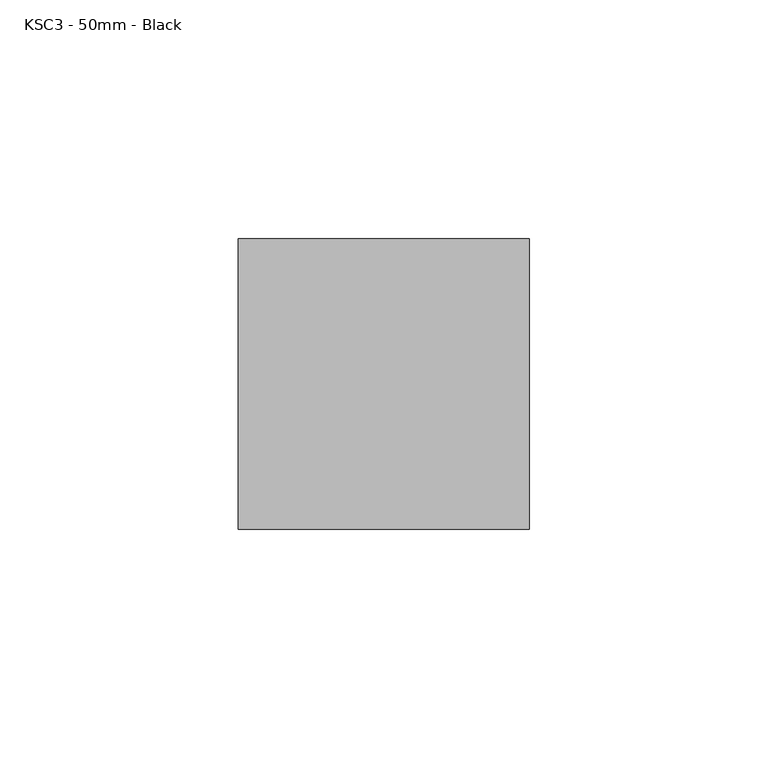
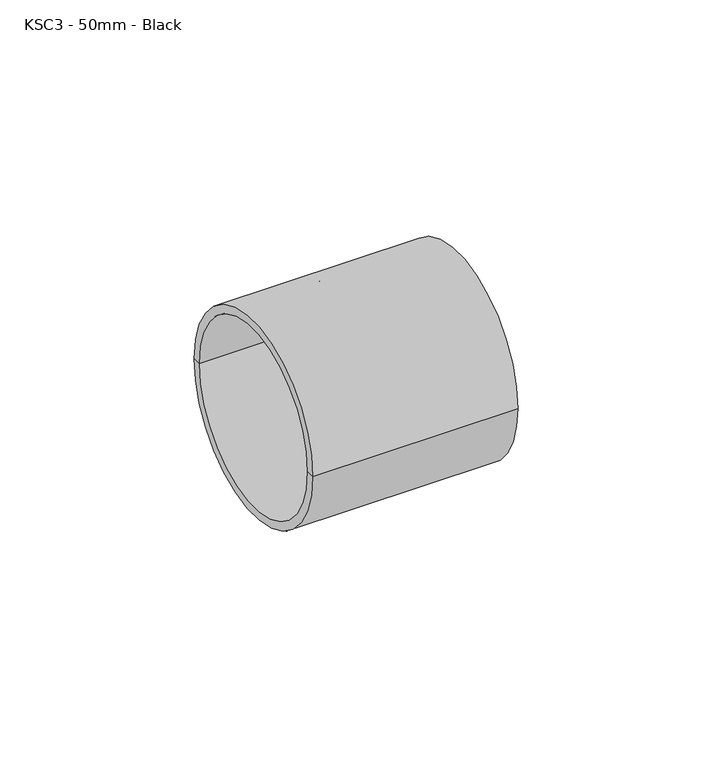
"""IFC4 building model written with IfcOpenShell, lengths in millimetres: pipe fitting geometry, MarleyPlumbingAndDrainage_PipeFitting_StraightCoupling : KSC3 - 50mm - Black."""

from ifc_helpers import new_model, si_unit, frame, origin, place, context, project, spatial, polyline, circle_curve, source, transform, mapped, element, save
from ifc_brep_helpers import plane_surface, cylinder_surface, revolved_surface, advanced_brep


def ksc3_50mm_black_f16c5d37(model_context):
    return source(origin(), model_context, "Body", "AdvancedBrep", [
        advanced_brep(
        [(-45.3253818, -28.0, 0.0), (-45.3253818, 28.0, 0.0), (-45.3253818, 30.5, 0.0), (-45.3253818, -30.5, 0.0), (-16.3253818, -28.0, 0.0), (-16.3253818, 28.0, 0.0), (-16.3253818, 0.0, 0.0), (-13.3253818, -28.0, 0.0), (-13.3253818, 28.0, 0.0), (-13.3253818, 0.0, 0.0), (15.6746182, -28.0, 0.0), (15.6746182, 28.0, 0.0), (15.6746182, -30.5, 0.0), (15.6746182, 30.5, 0.0)],
        [
            (0, 1, circle_curve(frame((-45.3253818, 0.0, 0.0), z_axis=(1.0, 0.0, 0.0), x_axis=(0.0, 1.0, 0.0)), 28.0)),
            (1, 2),
            (2, 3, circle_curve(frame((-45.3253818, 0.0, 0.0), z_axis=(-1.0, 0.0, 0.0), x_axis=(0.0, 1.0, 0.0)), 30.5)),
            (3, 0),
            (1, 0, circle_curve(frame((-45.3253818, 0.0, 0.0), z_axis=(1.0, 0.0, 0.0), x_axis=(0.0, 1.0, 0.0)), 28.0)),
            (3, 2, circle_curve(frame((-45.3253818, 0.0, 0.0), z_axis=(-1.0, 0.0, 0.0), x_axis=(0.0, 1.0, 0.0)), 30.5)),
            (4, 5, circle_curve(frame((-16.3253818, 0.0, 0.0), z_axis=(1.0, 0.0, 0.0), x_axis=(0.0, 1.0, 0.0)), 28.0)),
            (5, 1),
            (0, 4),
            (5, 4, circle_curve(frame((-16.3253818, 0.0, 0.0), z_axis=(1.0, 0.0, 0.0), x_axis=(0.0, 1.0, 0.0)), 28.0)),
            (6, 5),
            (4, 6),
            (7, 8, circle_curve(frame((-13.3253818, 0.0, 0.0), z_axis=(1.0, 0.0, 0.0), x_axis=(0.0, 1.0, 0.0)), 28.0)),
            (8, 9),
            (9, 7),
            (8, 7, circle_curve(frame((-13.3253818, 0.0, 0.0), z_axis=(1.0, 0.0, 0.0), x_axis=(0.0, 1.0, 0.0)), 28.0)),
            (10, 11, circle_curve(frame((15.6746182, 0.0, 0.0), z_axis=(1.0, 0.0, 0.0), x_axis=(0.0, 1.0, 0.0)), 28.0)),
            (11, 8),
            (7, 10),
            (11, 10, circle_curve(frame((15.6746182, 0.0, 0.0), z_axis=(1.0, 0.0, 0.0), x_axis=(0.0, 1.0, 0.0)), 28.0)),
            (12, 13, circle_curve(frame((15.6746182, 0.0, 0.0), z_axis=(1.0, 0.0, 0.0), x_axis=(0.0, 1.0, 0.0)), 30.5)),
            (13, 11),
            (10, 12),
            (13, 12, circle_curve(frame((15.6746182, 0.0, 0.0), z_axis=(1.0, 0.0, 0.0), x_axis=(0.0, 1.0, 0.0)), 30.5)),
            (2, 13),
            (12, 3),
        ],
        [
            plane_surface(frame((-45.3253818, 0.0, 0.0), z_axis=(-1.0, 0.0, 0.0), x_axis=(0.0, 1.0, 0.0))),
            revolved_surface(polyline([(-45.32538179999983, 28.0, 0.0), (-16.32538180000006, 28.0, 0.0)]), (2007.5, 0.0, 0.0), (-1.0, 0.0, 0.0)),
            plane_surface(frame((-16.3253818, 0.0, 0.0), z_axis=(-1.0, 0.0, 0.0), x_axis=(0.0, 1.0, 0.0))),
            plane_surface(frame((-13.3253818, 0.0, 0.0), z_axis=(1.0, 0.0, 0.0), x_axis=(0.0, 1.0, 0.0))),
            revolved_surface(polyline([(-13.32538180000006, 28.0, 0.0), (15.67461819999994, 28.0, 0.0)]), (2007.5, 0.0, 0.0), (-1.0, 0.0, 0.0)),
            plane_surface(frame((15.6746182, 0.0, 0.0), z_axis=(1.0, 0.0, 0.0), x_axis=(0.0, 1.0, 0.0))),
            cylinder_surface(frame((2007.5, 0.0, 0.0), z_axis=(-1.0, 0.0, 0.0), x_axis=(0.0, 1.0, 0.0)), 30.5),
        ],
        [
            (0, [[1, 2, 3, 4]]),
            (0, [[5, -4, 6, -2]]),
            (1, [[7, 8, -1, 9]]),
            (1, [[10, -9, -5, -8]]),
            (2, [[11, -7, 12]]),
            (2, [[-12, -10, -11]]),
            (3, [[13, 14, 15]]),
            (3, [[16, -15, -14]]),
            (4, [[17, 18, -13, 19]]),
            (4, [[20, -19, -16, -18]]),
            (5, [[21, 22, -17, 23]]),
            (5, [[24, -23, -20, -22]]),
            (6, [[-3, 25, -21, 26]]),
            (6, [[-6, -26, -24, -25]]),
        ],
    ),
    ])


if __name__ == "__main__":
    model = new_model("IFC4")
    model_context = context("Model", 3, world=origin())
    ifc_project = project(units=[si_unit("LENGTHUNIT", "METRE", prefix="MILLI")], contexts=[model_context])
    site = spatial("IfcSite", under=ifc_project)
    building = spatial("IfcBuilding", under=site)
    placement = place(None, origin())
    ksc3_50mm_black_shape = ksc3_50mm_black_f16c5d37(model_context)
    element("IfcPipeFitting", 1, ObjectType="MarleyPlumbingAndDrainage_PipeFitting_StraightCoupling : KSC3 - 50mm - Black", at=placement, inside=building, context=model_context, shape_type="MappedRepresentation", body=[
        mapped(ksc3_50mm_black_shape, transform((0.0, 0.0, 0.0), x_axis=(1.0, 0.0, 0.0), y_axis=(0.0, 1.0, 0.0), z_axis=(0.0, 0.0, 1.0))),
    ])
    save(model, "model.ifc")
